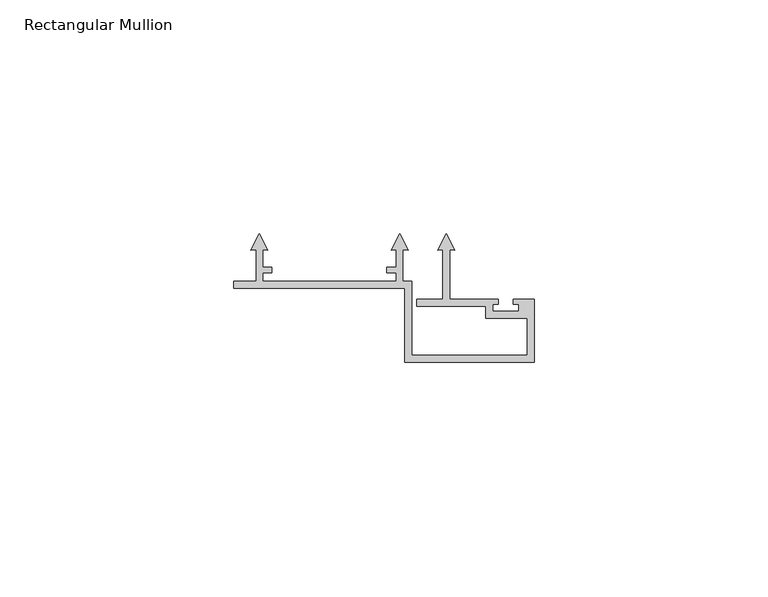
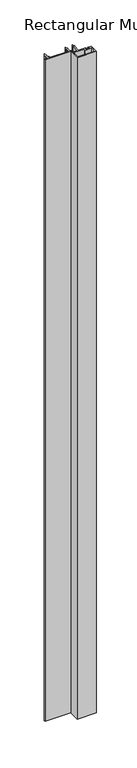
"""IFC4 building model written with IfcOpenShell, lengths in millimetres: member geometry, Rectangular Mullion : Renson_Linarte_LA-B16-05."""

from ifc_helpers import new_model, si_unit, frame, origin, place, context, project, spatial, polyline, outline, extrude, source, transform, mapped, element, save


def rectangular_mullion_172d6531(model_context):
    return source(origin(), model_context, "Body", "SweptSolid", [
        extrude(outline(polyline([(0.0, -36.7000004), (0.0, -35.2000006), (4.7999998, -35.2000006), (4.8000027, -28.5038205), (3.6842638, -28.601435), (5.5000004, -25.0378476), (7.315737, -28.601435), (6.2000002, -28.5038207), (6.2000002, -32.2000004), (8.2000002, -32.2000004), (8.2000002, -33.4000004), (6.2000002, -33.4000004), (6.2000002, -35.2000006), (34.8000002, -35.2000006), (34.8000002, -33.4000004), (32.8000002, -33.4000004), (32.8000002, -32.2000004), (34.8000002, -32.2000004), (34.8000002, -28.5038207), (33.6842635, -28.601435), (35.5000001, -25.0378476), (37.3157367, -28.601435), (36.1999978, -28.5038205), (36.2000007, -35.2000006), (38.1500005, -35.2000006), (38.1500005, -51.1), (62.8500005, -51.1), (62.8500005, -43.1000002), (54.0000005, -43.1000002), (54.0000005, -40.6000002), (39.1500005, -40.6000002), (39.1500005, -39.1000002), (44.8000015, -39.1000002), (44.8000015, -28.5038207), (43.6842647, -28.601435), (45.5000013, -25.0378476), (47.3157379, -28.601435), (46.2000001, -28.5038206), (46.2000001, -39.1000002), (56.6500005, -39.1000002), (56.6500005, -40.1000002), (55.5000005, -40.1000002), (55.5000005, -41.6000002), (61.0000005, -41.6000002), (61.0000005, -40.1000002), (59.8500005, -40.1000002), (59.8500005, -39.1000002), (64.3500005, -39.1000002), (64.3500005, -52.6), (36.6500005, -52.6), (36.6500005, -36.7000004), (0.0, -36.7000004)])), frame((0.0, 0.0, -1000.0), z_axis=(0.0, 0.0, 1.0), x_axis=(1.0, 0.0, 0.0)), (0.0, 0.0, 1.0), 1000.0),
    ])


if __name__ == "__main__":
    model = new_model("IFC4")
    model_context = context("Model", 3, world=origin())
    ifc_project = project(units=[si_unit("LENGTHUNIT", "METRE", prefix="MILLI")], contexts=[model_context])
    site = spatial("IfcSite", under=ifc_project)
    building = spatial("IfcBuilding", under=site)
    placement = place(None, origin())
    rectangular_mullion_shape = rectangular_mullion_172d6531(model_context)
    element("IfcMember", 1, ObjectType="Rectangular Mullion : Renson_Linarte_LA-B16-05", at=placement, inside=building, context=model_context, shape_type="MappedRepresentation", body=[
        mapped(rectangular_mullion_shape, transform((0.0, 0.0, 0.0), x_axis=(1.0, 0.0, 0.0), y_axis=(0.0, 1.0, 0.0), z_axis=(0.0, 0.0, 1.0))),
    ])
    save(model, "model.ifc")
